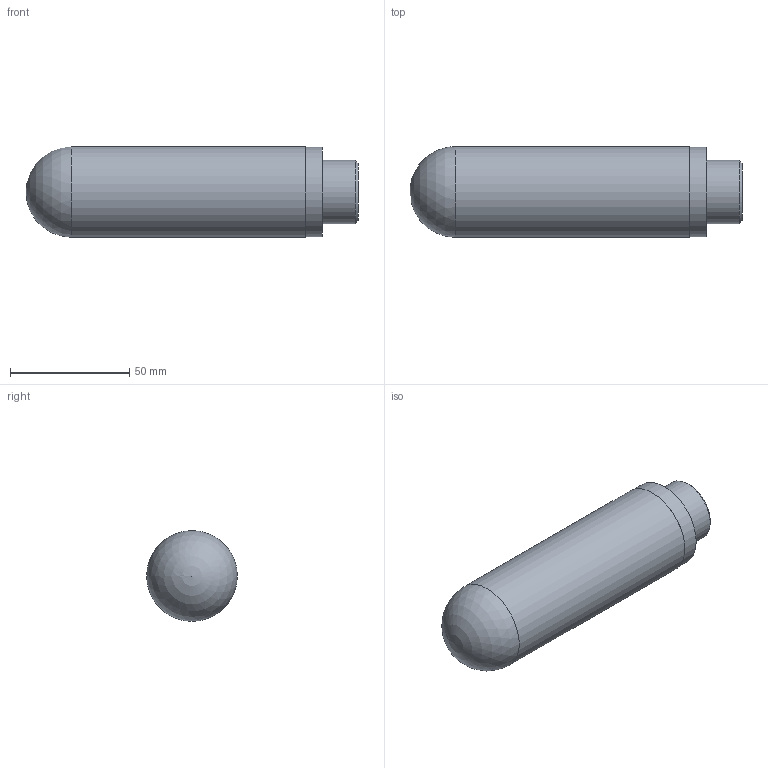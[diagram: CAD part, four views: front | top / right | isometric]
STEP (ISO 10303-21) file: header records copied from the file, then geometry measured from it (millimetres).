
FILE_DESCRIPTION(/* description */ ('STEP AP203'),/* implementation_level */ '2;1');
FILE_NAME(/* name */ '2928 3_4',/* time_stamp */ '2023-04-06T15:05:22+02:00',/* author */ ('License CC BY-ND 4.0'),/* organization */ ('CADENAS'),/* preprocessor_version */ 'ST-DEVELOPER v19.3',/* originating_system */ 'PARTsolutions',/* authorisation */ ' ');
FILE_SCHEMA (('CONFIG_CONTROL_DESIGN'));
Length unit declared in the file: millimetre
Products named in the file (1): 2928 3/4
Bounding box: 139 x 38 x 38 mm (x, y, z)
Volume: 141421.9 mm3; surface area: 17114 mm2
Topology: 1 solids, 1 shells, 8 faces, 13 edges, 8 vertices
Faces by surface type: cylinder 3, plane 3, sphere 1, cone 1
Full cylindrical faces by diameter (mm): 26.441 x1, 37.5 x1, 38 x1
Entity records: 184 total; most frequent: DIRECTION 32, CARTESIAN_POINT 23, AXIS2_PLACEMENT_3D 16, ORIENTED_EDGE 14, EDGE_LOOP 14, FACE_BOUND 14, ADVANCED_FACE 8, EDGE_CURVE 7
